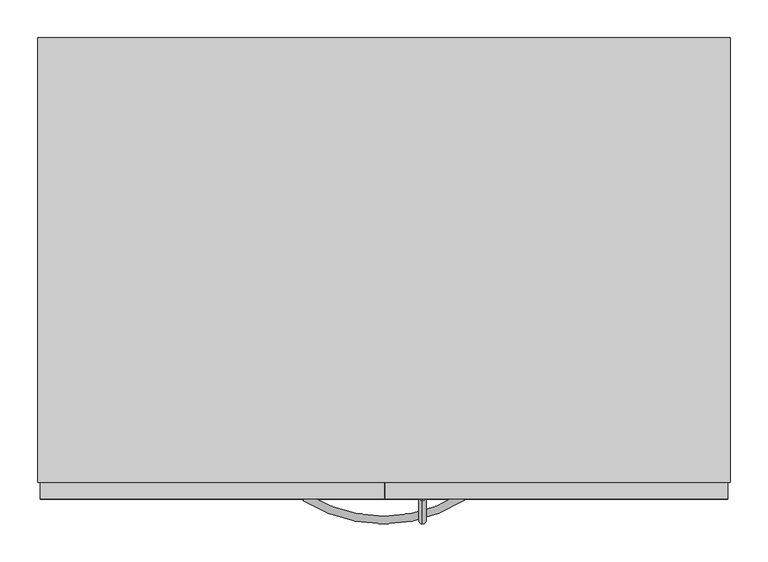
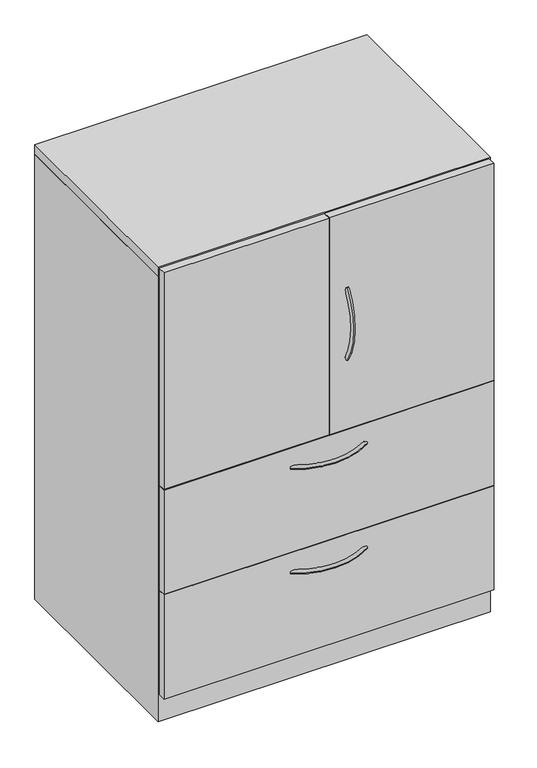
"""IFC4 building model written with IfcOpenShell, lengths in millimetres: furniture geometry, Steelcase - Universal Storage - Cabinet - Combination - Proud Steel : 52H - Hinged Doors/2 Drawers - 24D x 36W."""

from ifc_helpers import new_model, si_unit, point, frame, origin, place, context, project, spatial, polyline, circle_curve, ellipse_curve, trimmed, outline, extrude, faceted_brep, source, transform, mapped, element, save
from ifc_brep_helpers import plane_surface, revolved_surface, advanced_brep


def furniture_64f1256c(model_context):
    return source(origin(), model_context, "Body", "SolidModel", [
        extrude(outline(polyline([(911.2225413, -479.552), (3.1725353, -479.552), (3.1725353, -457.3261219), (911.2225413, -457.3261219), (911.2225413, -479.552)])), frame((0.0, 0.0, 77.724), z_axis=(0.0, 0.0, 1.0), x_axis=(1.0, 0.0, 0.0)), (0.0, 0.0, 1.0), 303.276),
        extrude(outline(polyline([(911.2225413, -479.552), (3.1725353, -479.552), (3.1725353, -457.3261219), (911.2225413, -457.3261219), (911.2225413, -479.552)])), frame((0.0, 0.0, 382.524), z_axis=(0.0, 0.0, 1.0), x_axis=(1.0, 0.0, 0.0)), (0.0, 0.0, 1.0), 303.276),
        extrude(outline(polyline([(457.2, -479.552), (3.1725353, -479.552), (3.1725353, -457.3261219), (457.2, -457.3261219), (457.2, -479.552)])), frame((0.0, 0.0, 687.7062596), z_axis=(0.0, 0.0, 1.0), x_axis=(1.0, 0.0, 0.0)), (0.0, 0.0, 1.0), 629.92),
        extrude(outline(polyline([(911.2225413, -479.552), (458.7239992, -479.552), (458.7239992, -457.3261219), (911.2225413, -457.3261219), (911.2225413, -479.552)])), frame((0.0, 0.0, 687.7062596), z_axis=(0.0, 0.0, 1.0), x_axis=(1.0, 0.0, 0.0)), (0.0, 0.0, 1.0), 629.92),
        advanced_brep(
        [(507.9682496, -481.5705994, 1099.843666), (507.9682496, -473.0108019, 1094.3705073), (507.9682496, -481.1337636, 887.5367456), (507.9682496, -472.5965612, 893.0450825)],
        [
            (0, 1, circle_curve(frame((507.9682496, -477.2907007, 1097.1070866), z_axis=(0.0, 0.5386967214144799, 0.842499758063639), x_axis=(0.0, 0.842499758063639, -0.5386967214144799)), 5.08)),
            (1, 0, circle_curve(frame((507.9682496, -477.2907007, 1097.1070866), z_axis=(0.0, 0.5386967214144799, 0.842499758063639), x_axis=(0.0, 0.842499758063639, -0.5386967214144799)), 5.08)),
            (2, 3, circle_curve(frame((507.9682496, -476.8651624, 890.2909141), z_axis=(0.0, 0.5421591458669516, -0.8402758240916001), x_axis=(0.0, 0.8402758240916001, 0.5421591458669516)), 5.08)),
            (3, 2, circle_curve(frame((507.9682496, -476.8651624, 890.2909141), z_axis=(0.0, 0.5421591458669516, -0.8402758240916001), x_axis=(0.0, 0.8402758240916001, 0.5421591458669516)), 5.08)),
            (3, 1, circle_curve(frame((507.9682496, -316.0827352, 994.0302589), z_axis=(-1.0, 0.0, 0.0), x_axis=(0.0, -0.8424997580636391, 0.5386967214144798)), 186.2648211)),
            (0, 2, circle_curve(frame((507.9682496, -316.0827352, 994.0302589), z_axis=(1.0, 0.0, 0.0), x_axis=(0.0, -0.8424997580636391, 0.5386967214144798)), 196.4248211)),
        ],
        [
            plane_surface(frame((508.7619996, -476.6365286, 1096.6888072), z_axis=(0.0, 0.5386967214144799, 0.8424997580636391), x_axis=(1.0, 0.0, 0.0))),
            plane_surface(frame((508.7619996, -476.2127171, 890.711882), z_axis=(0.0, 0.5421591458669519, -0.8402758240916), x_axis=(1.0, 0.0, 0.0))),
            revolved_surface(trimmed(ellipse_curve(frame((507.9682496, -477.2907007, 1097.1070866), z_axis=(0.0, 0.5386967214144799, 0.842499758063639), x_axis=(0.0, 0.842499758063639, -0.5386967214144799)), 5.08, 5.08), [point((507.9682496, -481.5705994, 1099.843666))], [point((507.9682496, -473.0108019, 1094.3705073))], True, "CARTESIAN"), (508.7619996, -316.0827352, 994.0302589), (1.0, 0.0, 0.0)),
            revolved_surface(trimmed(ellipse_curve(frame((507.9682496, -477.2907007, 1097.1070866), z_axis=(0.0, 0.5386967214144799, 0.842499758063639), x_axis=(0.0, 0.842499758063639, -0.5386967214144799)), 5.08, 5.08), [point((507.9682496, -473.0108019, 1094.3705073))], [point((507.9682496, -481.5705994, 1099.843666))], True, "CARTESIAN"), (508.7619996, -316.0827352, 994.0302589), (1.0, 0.0, 0.0)),
        ],
        [
            (0, [[1, 2]]),
            (1, [[3, 4]]),
            (2, [[5, -1, 6, -4]]),
            (3, [[-6, -2, -5, -3]]),
        ],
    ),
        advanced_brep(
        [(350.6245932, -481.5705994, 323.56425), (356.0977519, -473.0108019, 323.56425), (562.9315136, -481.1337636, 323.56425), (557.4231767, -472.5965612, 323.56425)],
        [
            (0, 1, circle_curve(frame((353.3611726, -477.2907007, 323.56425), z_axis=(-0.8424997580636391, 0.5386967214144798, 0.0), x_axis=(0.5386967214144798, 0.8424997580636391, 0.0)), 5.08)),
            (1, 0, circle_curve(frame((353.3611726, -477.2907007, 323.56425), z_axis=(-0.8424997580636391, 0.5386967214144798, 0.0), x_axis=(0.5386967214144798, 0.8424997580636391, 0.0)), 5.08)),
            (2, 3, circle_curve(frame((560.1773452, -476.8651624, 323.56425), z_axis=(0.8402758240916, 0.5421591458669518, 0.0), x_axis=(-0.5421591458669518, 0.8402758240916, 0.0)), 5.08)),
            (3, 2, circle_curve(frame((560.1773452, -476.8651624, 323.56425), z_axis=(0.8402758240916, 0.5421591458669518, 0.0), x_axis=(-0.5421591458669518, 0.8402758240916, 0.0)), 5.08)),
            (3, 1, circle_curve(frame((456.4380004, -316.0827352, 323.56425), z_axis=(0.0, 0.0, -1.0), x_axis=(-0.5386967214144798, -0.8424997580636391, 0.0)), 186.2648211)),
            (0, 2, circle_curve(frame((456.4380004, -316.0827352, 323.56425), z_axis=(0.0, 0.0, 1.0), x_axis=(-0.5386967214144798, -0.8424997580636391, 0.0)), 196.4248211)),
        ],
        [
            plane_surface(frame((353.7794521, -476.6365286, 324.358), z_axis=(-0.8424997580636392, 0.5386967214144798, 0.0), x_axis=(0.0, 0.0, 1.0))),
            plane_surface(frame((559.7563772, -476.2127171, 324.358), z_axis=(0.8402758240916, 0.5421591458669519, 0.0), x_axis=(0.0, 0.0, 1.0))),
            revolved_surface(trimmed(ellipse_curve(frame((353.3611726, -477.2907007, 323.56425), z_axis=(-0.8424997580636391, 0.5386967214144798, 0.0), x_axis=(0.5386967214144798, 0.8424997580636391, 0.0)), 5.08, 5.08), [point((350.6245932, -481.5705994, 323.56425))], [point((356.0977519, -473.0108019, 323.56425))], True, "CARTESIAN"), (456.4380004, -316.0827352, 324.358), (0.0, 0.0, 1.0)),
            revolved_surface(trimmed(ellipse_curve(frame((353.3611726, -477.2907007, 323.56425), z_axis=(-0.8424997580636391, 0.5386967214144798, 0.0), x_axis=(0.5386967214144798, 0.8424997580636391, 0.0)), 5.08, 5.08), [point((356.0977519, -473.0108019, 323.56425))], [point((350.6245932, -481.5705994, 323.56425))], True, "CARTESIAN"), (456.4380004, -316.0827352, 324.358), (0.0, 0.0, 1.0)),
        ],
        [
            (0, [[1, 2]]),
            (1, [[3, 4]]),
            (2, [[5, -1, 6, -4]]),
            (3, [[-6, -2, -5, -3]]),
        ],
    ),
        advanced_brep(
        [(350.6245932, -481.5705994, 627.85625), (356.0977519, -473.0108019, 627.85625), (562.9315136, -481.1337636, 627.85625), (557.4231767, -472.5965612, 627.85625)],
        [
            (0, 1, circle_curve(frame((353.3611726, -477.2907007, 627.85625), z_axis=(-0.8424997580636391, 0.5386967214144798, 0.0), x_axis=(0.5386967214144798, 0.8424997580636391, 0.0)), 5.08)),
            (1, 0, circle_curve(frame((353.3611726, -477.2907007, 627.85625), z_axis=(-0.8424997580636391, 0.5386967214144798, 0.0), x_axis=(0.5386967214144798, 0.8424997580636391, 0.0)), 5.08)),
            (2, 3, circle_curve(frame((560.1773452, -476.8651624, 627.85625), z_axis=(0.8402758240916, 0.5421591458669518, 0.0), x_axis=(-0.5421591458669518, 0.8402758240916, 0.0)), 5.08)),
            (3, 2, circle_curve(frame((560.1773452, -476.8651624, 627.85625), z_axis=(0.8402758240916, 0.5421591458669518, 0.0), x_axis=(-0.5421591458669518, 0.8402758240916, 0.0)), 5.08)),
            (3, 1, circle_curve(frame((456.4380004, -316.0827352, 627.85625), z_axis=(0.0, 0.0, -1.0), x_axis=(-0.5386967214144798, -0.8424997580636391, 0.0)), 186.2648211)),
            (0, 2, circle_curve(frame((456.4380004, -316.0827352, 627.85625), z_axis=(0.0, 0.0, 1.0), x_axis=(-0.5386967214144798, -0.8424997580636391, 0.0)), 196.4248211)),
        ],
        [
            plane_surface(frame((353.7794521, -476.6365286, 628.65), z_axis=(-0.8424997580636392, 0.5386967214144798, 0.0), x_axis=(0.0, 0.0, 1.0))),
            plane_surface(frame((559.7563772, -476.2127171, 628.65), z_axis=(0.8402758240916, 0.5421591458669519, 0.0), x_axis=(0.0, 0.0, 1.0))),
            revolved_surface(trimmed(ellipse_curve(frame((353.3611726, -477.2907007, 627.85625), z_axis=(-0.8424997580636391, 0.5386967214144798, 0.0), x_axis=(0.5386967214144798, 0.8424997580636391, 0.0)), 5.08, 5.08), [point((350.6245932, -481.5705994, 627.85625))], [point((356.0977519, -473.0108019, 627.85625))], True, "CARTESIAN"), (456.4380004, -316.0827352, 628.65), (0.0, 0.0, 1.0)),
            revolved_surface(trimmed(ellipse_curve(frame((353.3611726, -477.2907007, 627.85625), z_axis=(-0.8424997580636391, 0.5386967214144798, 0.0), x_axis=(0.5386967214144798, 0.8424997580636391, 0.0)), 5.08, 5.08), [point((356.0977519, -473.0108019, 627.85625))], [point((350.6245932, -481.5705994, 627.85625))], True, "CARTESIAN"), (456.4380004, -316.0827352, 628.65), (0.0, 0.0, 1.0)),
        ],
        [
            (0, [[1, 2]]),
            (1, [[3, 4]]),
            (2, [[5, -1, 6, -4]]),
            (3, [[-6, -2, -5, -3]]),
        ],
    ),
        faceted_brep([(25.4000008, -457.3261219, 76.2), (889.0000242, -457.3261219, 76.2), (889.0000242, 104.6479992, 76.2), (25.4000008, 104.6479992, 76.2), (914.4, 130.048, 0.0), (914.4, -457.3261219, 0.0), (0.0, -457.3261219, 0.0), (0.0, 130.048, 0.0), (0.0, 130.048, 1293.876), (914.4, 130.048, 1293.876), (0.0, -457.3261219, 1293.876), (914.4, -457.3261219, 1293.876), (889.0000242, -457.3261219, 1293.876), (25.4000008, -457.3261219, 1293.876), (889.0000242, 104.6479992, 1293.876), (25.4000008, 104.6479992, 1293.876)], [[[0, 1, 2, 3]], [[4, 5, 6, 7]], [[4, 7, 8, 9]], [[8, 7, 6, 10]], [[10, 6, 5, 11, 12, 1, 0, 13]], [[11, 5, 4, 9]], [[14, 12, 11, 9, 8, 10, 13, 15]], [[12, 14, 2, 1]], [[15, 13, 0, 3]], [[14, 15, 3, 2]]]),
        extrude(outline(polyline([(914.4, 130.048), (914.4, -457.3261219), (0.0, -457.3261219), (0.0, 130.048), (914.4, 130.048)])), frame((0.0, 0.0, 1295.3999516), z_axis=(0.0, 0.0, 1.0), x_axis=(1.0, 0.0, 0.0)), (0.0, 0.0, 1.0), 25.4000484),
    ])


if __name__ == "__main__":
    model = new_model("IFC4")
    model_context = context("Model", 3, world=origin())
    ifc_project = project(units=[si_unit("LENGTHUNIT", "METRE", prefix="MILLI")], contexts=[model_context])
    site = spatial("IfcSite", under=ifc_project)
    building = spatial("IfcBuilding", under=site)
    placement = place(None, origin())
    furniture_shape = furniture_64f1256c(model_context)
    element("IfcFurniture", 1, ObjectType="Steelcase - Universal Storage - Cabinet - Combination - Proud Steel : 52H - Hinged Doors/2 Drawers - 24D x 36W", at=placement, inside=building, context=model_context, shape_type="MappedRepresentation", body=[
        mapped(furniture_shape, transform((0.0, 0.0, 0.0), x_axis=(1.0, 0.0, 0.0), y_axis=(0.0, 1.0, 0.0), z_axis=(0.0, 0.0, 1.0))),
    ])
    save(model, "model.ifc")
